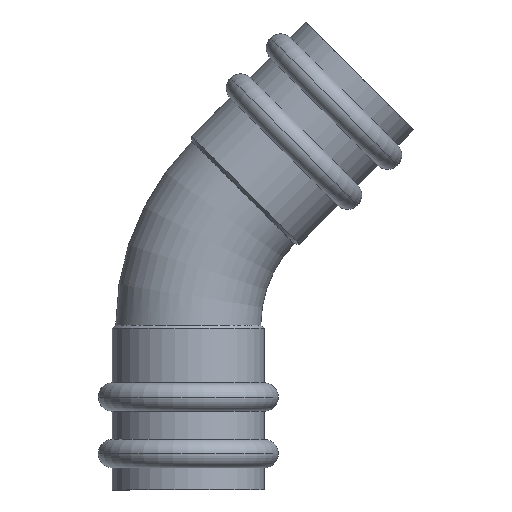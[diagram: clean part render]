
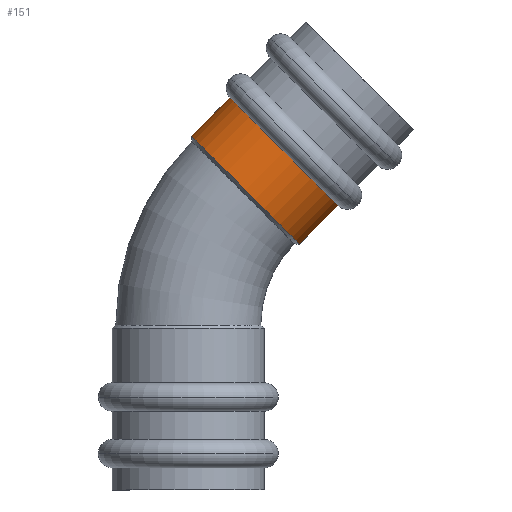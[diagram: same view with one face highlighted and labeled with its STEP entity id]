
A CAD part, front view. The second image highlights one B-rep face of the part: STEP entity #151.
In plain terms, the highlighted cylindrical face has radius 18.85 mm (diameter 37.7 mm), a partial arc.
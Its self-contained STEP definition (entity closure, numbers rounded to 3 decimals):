
#151=ADVANCED_FACE('',(#343),#344,.T.);
#343=FACE_OUTER_BOUND('',#591,.T.);
#344=CYLINDRICAL_SURFACE('',#592,18.85);
#591=EDGE_LOOP('',(#963,#964,#965,#966));
#592=AXIS2_PLACEMENT_3D('',#967,#968,#969);
#963=ORIENTED_EDGE('',*,*,#1460,.F.);
#964=ORIENTED_EDGE('',*,*,#1461,.T.);
#965=ORIENTED_EDGE('',*,*,#1462,.F.);
#966=ORIENTED_EDGE('',*,*,#1463,.F.);
#967=CARTESIAN_POINT('',(18.915,0.0,78.915));
#968=DIRECTION('',(0.707,0.0,0.707));
#969=DIRECTION('',(-0.707,0.0,0.707));
#1460=EDGE_CURVE('',#1751,#1752,#1753,.T.);
#1461=EDGE_CURVE('',#1751,#1754,#1755,.T.);
#1462=EDGE_CURVE('',#1756,#1754,#1757,.T.);
#1463=EDGE_CURVE('',#1752,#1756,#1758,.T.);
#1751=VERTEX_POINT('',#2244);
#1752=VERTEX_POINT('',#2245);
#1753=LINE('',#2246,#2247);
#1754=VERTEX_POINT('',#2248);
#1755=CIRCLE('',#2249,18.85);
#1756=VERTEX_POINT('',#2250);
#1757=LINE('',#2251,#2252);
#1758=CIRCLE('',#2253,18.85);
#2244=CARTESIAN_POINT('',(0.813,0.,87.471));
#2245=CARTESIAN_POINT('',(10.359,0.,97.017));
#2246=CARTESIAN_POINT('',(5.586,0.,92.244));
#2247=VECTOR('',#2772,1.0);
#2248=CARTESIAN_POINT('',(27.471,0.,60.813));
#2249=AXIS2_PLACEMENT_3D('',#2773,#2774,#2775);
#2250=CARTESIAN_POINT('',(37.017,0.,70.359));
#2251=CARTESIAN_POINT('',(32.244,0.,65.586));
#2252=VECTOR('',#2776,1.0);
#2253=AXIS2_PLACEMENT_3D('',#2777,#2778,#2779);
#2772=DIRECTION('',(0.707,0.0,0.707));
#2773=CARTESIAN_POINT('',(14.142,0.0,74.142));
#2774=DIRECTION('',(0.707,0.0,0.707));
#2775=DIRECTION('',(-0.707,0.0,0.707));
#2776=DIRECTION('',(-0.707,-0.0,-0.707));
#2777=CARTESIAN_POINT('',(23.688,0.0,83.688));
#2778=DIRECTION('',(0.707,0.0,0.707));
#2779=DIRECTION('',(-0.707,0.0,0.707));
